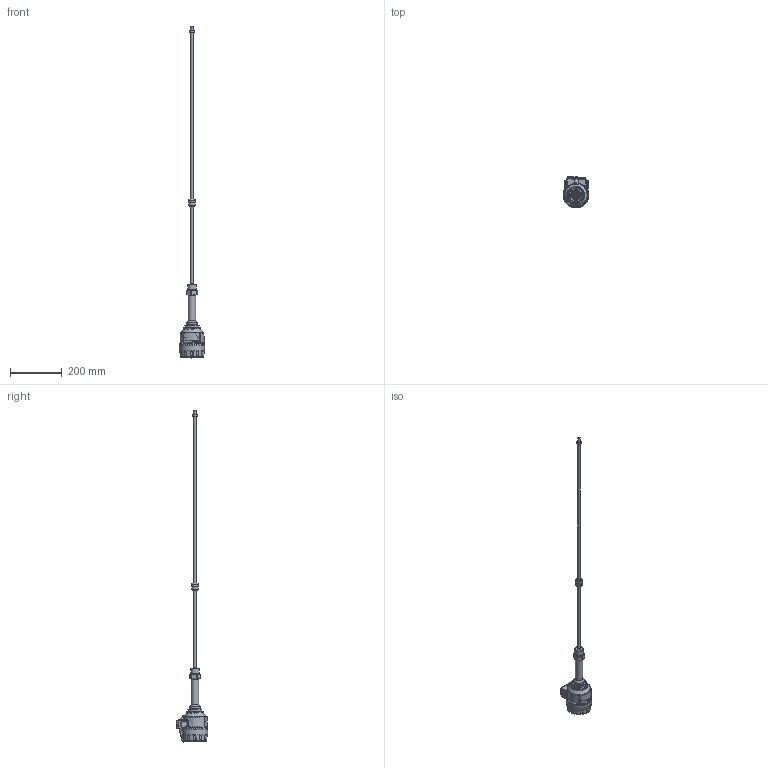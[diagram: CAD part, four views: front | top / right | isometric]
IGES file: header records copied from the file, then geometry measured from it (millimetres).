
Global section: file name: M_RN_Aszer_1,5col; native system: Autodesk Inventor 2015; preprocessor: unknown; author: aantal; date: 20150306.112427; units: millimetre
Bounding box: 98.92 x 122 x 1288.98 mm (x, y, z)
Volume: 1078358.7 mm3; surface area: 147586.8 mm2
Topology: 18 solids, 20 shells, 1111 faces, 2717 edges, 1647 vertices
Faces by surface type: bspline 1111
